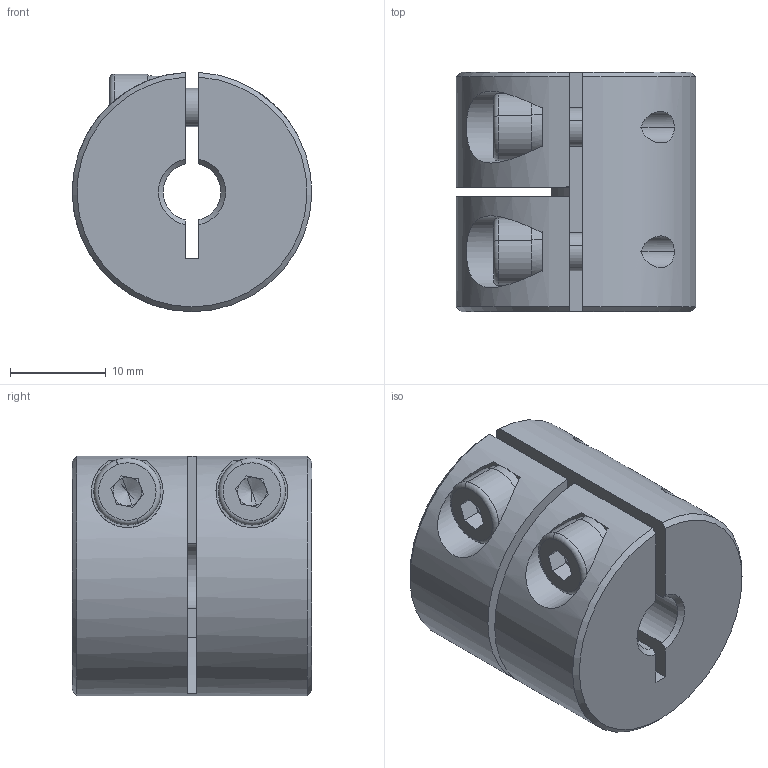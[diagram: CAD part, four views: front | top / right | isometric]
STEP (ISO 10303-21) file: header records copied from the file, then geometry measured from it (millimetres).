
FILE_DESCRIPTION (( 'STEP AP203' ), '1' );
FILE_NAME ('LL-B-D25L25-6-7.STEP', '2021-11-05T06:30:21', ( '' ), ( '' ), 'SwSTEP 2.0', 'SolidWorks 2018', '' );
FILE_SCHEMA (( 'CONFIG_CONTROL_DESIGN' ));
Length unit declared in the file: millimetre
Products named in the file (1): LL-B-D25L25-6-7
Bounding box: 24.99 x 25 x 24.98 mm (x, y, z)
Volume: 10598.5 mm3; surface area: 4954.7 mm2
Topology: 1 solids, 1 shells, 104 faces, 270 edges, 170 vertices
Faces by surface type: plane 52, cylinder 37, cone 11, torus 4
Entity records: 3471 total; most frequent: CARTESIAN_POINT 815, DIRECTION 560, ORIENTED_EDGE 532, EDGE_CURVE 266, AXIS2_PLACEMENT_3D 215, VERTEX_POINT 170, VECTOR 130, LINE 130
